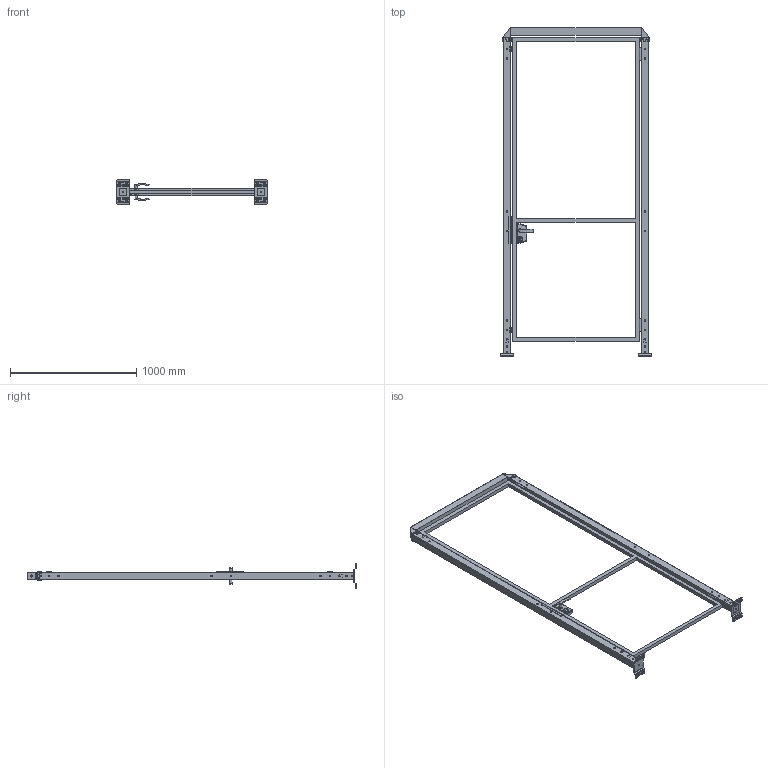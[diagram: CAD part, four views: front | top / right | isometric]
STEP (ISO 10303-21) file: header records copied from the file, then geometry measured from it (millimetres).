
FILE_DESCRIPTION(('STEP AP242'),'1');
FILE_NAME('vfda_bscgd03_10002520.stp','2024-08-08T08:04:19',('TraceParts'),('TraceParts S.A.'),'Spatial InterOp 3D',' ',' ');
FILE_SCHEMA(('AP242_MANAGED_MODEL_BASED_3D_ENGINEERING_MIM_LF {1 0 10303 442 1 1 4}'));
Length unit declared in the file: millimetre
Products named in the file (1): vfda_bscgd03_10002520_1
Bounding box: 1190 x 2601 x 192 mm (x, y, z)
Volume: 9820688.3 mm3; surface area: 4053025 mm2
Topology: 13 solids, 13 shells, 1629 faces, 4331 edges, 2766 vertices
Faces by surface type: plane 807, cylinder 554, bspline 194, cone 46, torus 28
Entity records: 67608 total; most frequent: CARTESIAN_POINT 14334, ORIENTED_EDGE 8662, DIRECTION 7987, EDGE_CURVE 4331, VERTEX_POINT 2766, AXIS2_PLACEMENT_3D 2674, LINE 2639, VECTOR 2639
